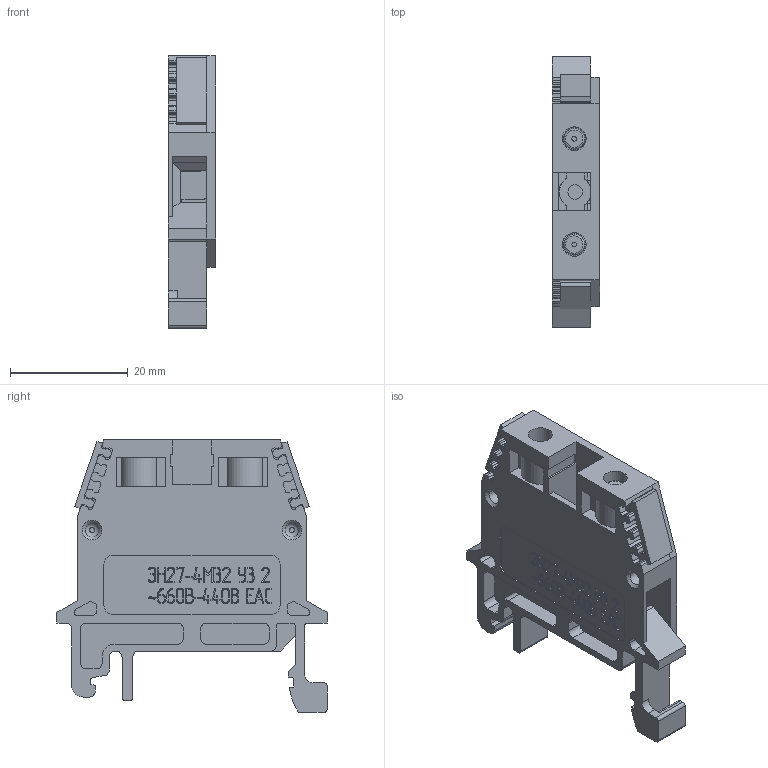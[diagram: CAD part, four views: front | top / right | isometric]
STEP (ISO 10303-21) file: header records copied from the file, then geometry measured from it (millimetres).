
FILE_DESCRIPTION(('STEP AP214'), '1');
FILE_NAME('ÇÍ27-4Ì32 ñ êðûøêîé òîðöåâîé (3D çàêàç÷èêàì)', '', ('UNSPECIFIED'), ('UNSPECIFIED'), 'ASCON STEP Converter 1.6', 'ASCON Math Kernel', '');
FILE_SCHEMA(('AUTOMOTIVE_DESIGN { 1 0 10303 214 3 1 1}'));
Length unit declared in the file: millimetre
Bounding box: 8 x 46 x 46.4 mm (x, y, z)
Volume: 7822.7 mm3; surface area: 10003.3 mm2
Topology: 3 solids, 3 shells, 1902 faces, 5481 edges, 3613 vertices
Faces by surface type: plane 1059, cylinder 827, cone 10, torus 6
Full cylindrical faces by diameter (mm): 0.8 x2, 2.459 x2, 2.5 x1, 2.6 x2, 3 x2, 3.2 x2, 4.05 x2
Entity records: 77746 total; most frequent: CARTESIAN_POINT 11094, ORIENTED_EDGE 10904, DIRECTION 10883, EDGE_CURVE 5452, LINE 3743, VECTOR 3743, VERTEX_POINT 3613, AXIS2_PLACEMENT_3D 3570
